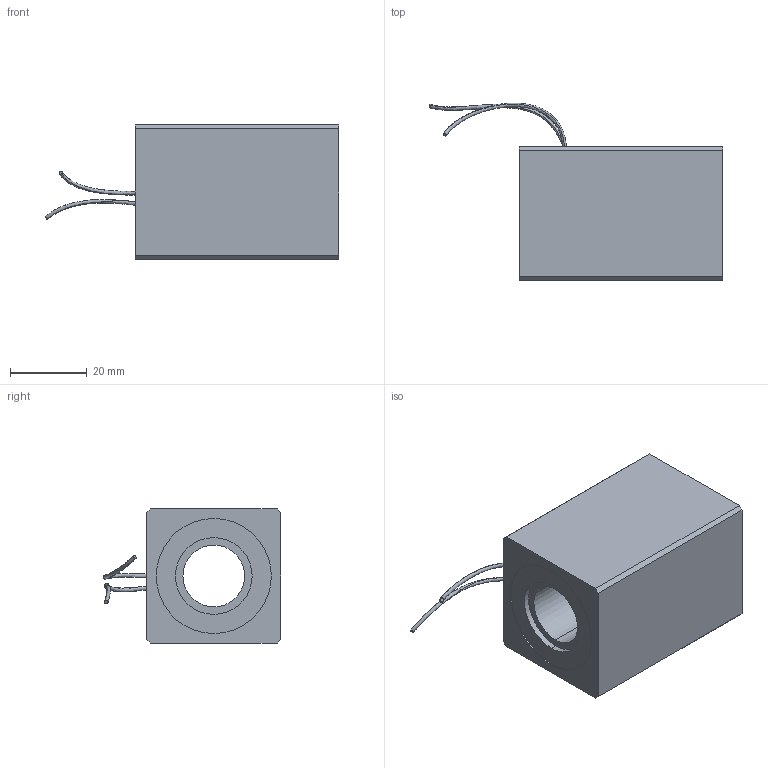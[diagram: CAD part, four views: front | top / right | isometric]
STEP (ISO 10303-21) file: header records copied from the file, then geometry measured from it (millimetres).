
FILE_DESCRIPTION (( 'STEP AP214' ), '1' );
FILE_NAME ('MLS35_16x50.STEP', '2015-07-07T05:03:18', ( '' ), ( '' ), 'SwSTEP 2.0', 'SolidWorks 2014', '' );
FILE_SCHEMA (( 'AUTOMOTIVE_DESIGN' ));
Length unit declared in the file: millimetre
Products named in the file (2): MLS35_16x50
Bounding box: 76.53 x 46.36 x 35 mm (x, y, z)
Volume: 53319.2 mm3; surface area: 12998.7 mm2
Topology: 7 solids, 7 shells, 62 faces, 118 edges, 78 vertices
Faces by surface type: cylinder 30, plane 26, bspline 4, torus 2
Entity records: 3038 total; most frequent: CARTESIAN_POINT 967, DIRECTION 282, ORIENTED_EDGE 236, EDGE_CURVE 118, AXIS2_PLACEMENT_3D 116, VERTEX_POINT 78, EDGE_LOOP 72, UNCERTAINTY_MEASURE_WITH_UNIT 71
